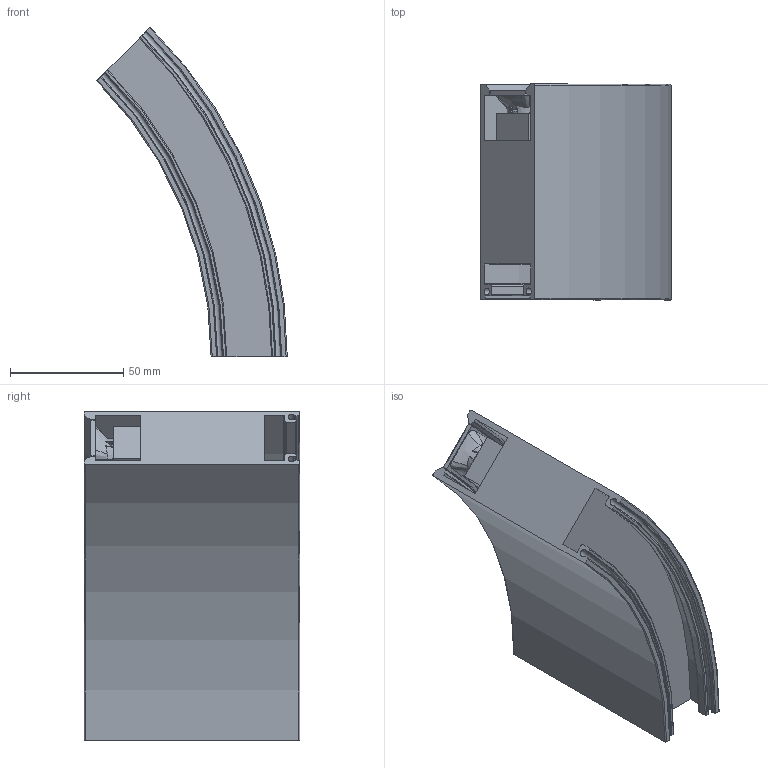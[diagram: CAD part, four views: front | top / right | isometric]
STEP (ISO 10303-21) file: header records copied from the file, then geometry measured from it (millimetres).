
FILE_DESCRIPTION(/* description */ (''),/* implementation_level */ '2;1');
FILE_NAME(/* name */ 'Evelo S R200 Optics Assembly.stp',/* time_stamp */ '2024-09-20T16:56:50+10:00',/* author */ ('Mlight Projects'),/* organization */ (''),/* preprocessor_version */ 'ST-DEVELOPER v20',/* originating_system */ 'Autodesk Inventor 2024',/* authorisation */ '');
FILE_SCHEMA (('AUTOMOTIVE_DESIGN { 1 0 10303 214 3 1 1 }'));
Length unit declared in the file: millimetre
Products named in the file (3): Evelo S R200 Optics Assembly; Body R200; Admi4D3566vd
Assembly tree (2 placements, depth 2):
  Evelo S R200 Optics Assembly
    Body R200
    Admi4D3566vd
Bounding box: 84.04 x 95.1 x 145.52 mm (x, y, z)
Volume: 339297.6 mm3; surface area: 90012.2 mm2
Topology: 3 solids, 3 shells, 1100 faces, 3012 edges, 1940 vertices
Faces by surface type: bspline 520, plane 286, cone 157, cylinder 100, torus 37
Full cylindrical faces by diameter (mm): 3.5 x3, 10.5 x2, 13.374 x5
Entity records: 53736 total; most frequent: CARTESIAN_POINT 29142, ORIENTED_EDGE 6024, DIRECTION 4032, EDGE_CURVE 3012, VERTEX_POINT 1940, AXIS2_PLACEMENT_3D 1718, B_SPLINE_CURVE_WITH_KNOTS 1267, EDGE_LOOP 1182
